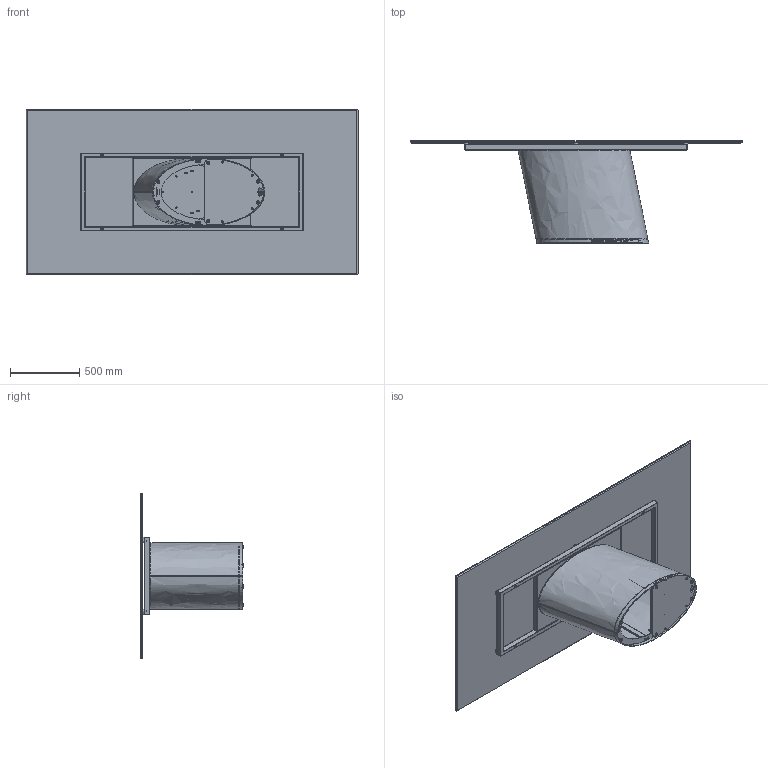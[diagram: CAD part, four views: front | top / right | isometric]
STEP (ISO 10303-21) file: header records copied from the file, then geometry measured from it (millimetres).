
FILE_DESCRIPTION (( 'STEP AP203' ), '1' );
FILE_NAME ('DO22C.STEP', '2024-08-06T13:10:09', ( '' ), ( '' ), 'SwSTEP 2.0', 'SolidWorks 2022', '' );
FILE_SCHEMA (( 'CONFIG_CONTROL_DESIGN' ));
Length unit declared in the file: millimetre
Products named in the file (20): DOB000000_04-00-contrapesso filettato_Default<A macchina>; DOB000000_05-00-Zavorra intenra del dorado_Default<A macchina>; DOB000000_03-00-Piastra  inferiore_Default<A macchina>; DOB000000-00-DORADO BASE GREZZO; DOB000000_02-00-barra rettangoalre di supporto_Default<A macchina>; TTAV01_01-05-TELAIO UNIVERSALE X TAVOLI 180 240cm; M8xXXmm_M8X30mm; DOB000000_07-00-lamiera guscio sx_Default<A macchina>; DOB000000_06-00-Lamiera guscio dx_Default<A macchina>; piedino dorado; DOB000000_08-00-Zavorra inferiore_Default<A macchina>; 434070-00-PIEDINO TPV GOMMA NERO D. 30x8max18_filo estetico; TTAV01_02-05-VASSOIO IRRIGIDIMENTO TELAIO UNIVERSALE; TTAV01-05-TELAIO UNIVERSALE X TAVOLI 180 240cm; K2XCMXX-00-Piani Rettangolari in ceramica_2390 x 1190; nut_M8_M8; COLLO TELAIO UNIVERSALE TTAV01 CON FERRAMENTA_MTG TOP CRISTALLO VERNICIATO-CERAMICA; DOB000000_01-00-piastra superiore _Default<A macchina>; barra filettata H.72cm_barra; DO22C
Assembly tree (40 placements, depth 4):
  DO22C
    DOB000000-00-DORADO BASE GREZZO
      DOB000000_08-00-Zavorra inferiore_Default<A macchina>
      DOB000000_04-00-contrapesso filettato_Default<A macchina>
      DOB000000_05-00-Zavorra intenra del dorado_Default<A macchina>  x4
      DOB000000_01-00-piastra superiore _Default<A macchina>
      DOB000000_07-00-lamiera guscio sx_Default<A macchina>
      DOB000000_02-00-barra rettangoalre di supporto_Default<A macchina>  x4
      DOB000000_03-00-Piastra  inferiore_Default<A macchina>
      DOB000000_06-00-Lamiera guscio dx_Default<A macchina>
      M8xXXmm_M8X30mm  x4
      nut_M8_M8  x2
      piedino dorado  x6
      barra filettata H.72cm_barra  x2
    COLLO TELAIO UNIVERSALE TTAV01 CON FERRAMENTA_MTG TOP CRISTALLO VERNICIATO-CERAMICA
      TTAV01-05-TELAIO UNIVERSALE X TAVOLI 180 240cm
        TTAV01_02-05-VASSOIO IRRIGIDIMENTO TELAIO UNIVERSALE
        TTAV01_01-05-TELAIO UNIVERSALE X TAVOLI 180 240cm
      434070-00-PIEDINO TPV GOMMA NERO D. 30x8max18_filo estetico  x6
    K2XCMXX-00-Piani Rettangolari in ceramica_2390 x 1190
Bounding box: 2390 x 738 x 1190 mm (x, y, z)
Volume: 57436140 mm3; surface area: 18713850 mm2
Topology: 50 solids, 50 shells, 1118 faces, 2712 edges, 1708 vertices
Faces by surface type: cylinder 474, plane 418, torus 100, cone 92, bspline 26, sphere 8
Entity records: 26903 total; most frequent: CARTESIAN_POINT 7886, DIRECTION 3519, ORIENTED_EDGE 3308, EDGE_CURVE 1654, AXIS2_PLACEMENT_3D 1297, VERTEX_POINT 1066, LINE 925, VECTOR 925
